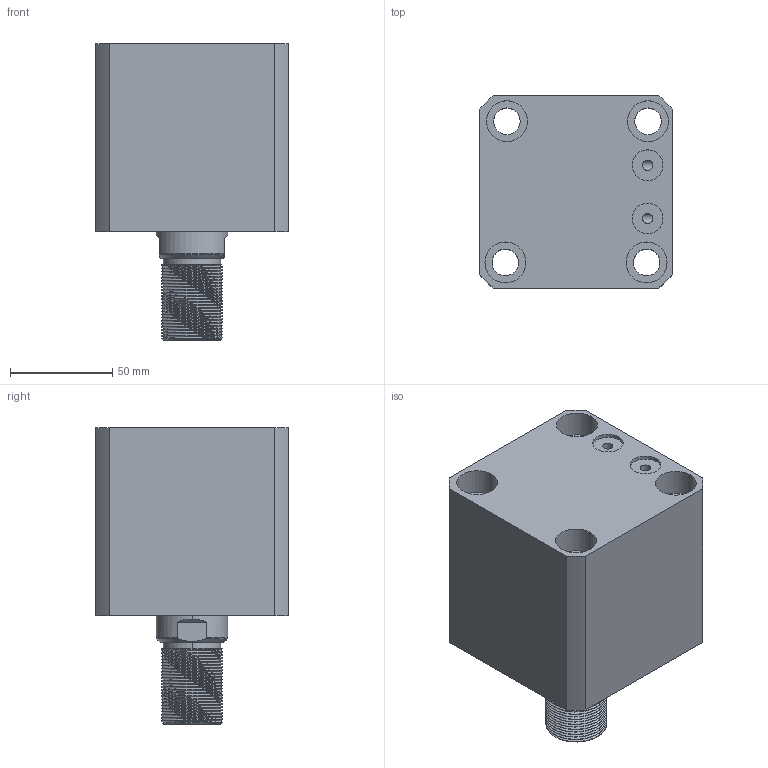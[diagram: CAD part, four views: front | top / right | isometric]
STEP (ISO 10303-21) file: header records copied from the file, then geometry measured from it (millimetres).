
FILE_DESCRIPTION (( 'STEP AP214' ), '1' );
FILE_NAME ('chtb-sdmb63x25w_asm.STEP', '2018-05-18T11:02:12', ( 'Windows' ), ( 'Microsoft' ), 'SwSTEP 2.0', 'SolidWorks 2015', '' );
FILE_SCHEMA (( 'AUTOMOTIVE_DESIGN' ));
Length unit declared in the file: millimetre
Products named in the file (4): CHTB-SDMB63X25NBT; CHTB63X25WHSG; CHTB-63QG; chtb-sdmb63x25w_asm
Assembly tree (3 placements, depth 2):
  chtb-sdmb63x25w_asm
    CHTB-63QG
    CHTB63X25WHSG
    CHTB-SDMB63X25NBT
Bounding box: 94 x 94 x 145 mm (x, y, z)
Volume: 721101.5 mm3; surface area: 128907 mm2
Topology: 3 solids, 3 shells, 218 faces, 628 edges, 427 vertices
Faces by surface type: cylinder 156, plane 33, bspline 14, cone 9, torus 6
Entity records: 22278 total; most frequent: CARTESIAN_POINT 17042, ORIENTED_EDGE 1248, DIRECTION 869, EDGE_CURVE 624, VERTEX_POINT 427, AXIS2_PLACEMENT_3D 339, EDGE_LOOP 251, FACE_OUTER_BOUND 218
